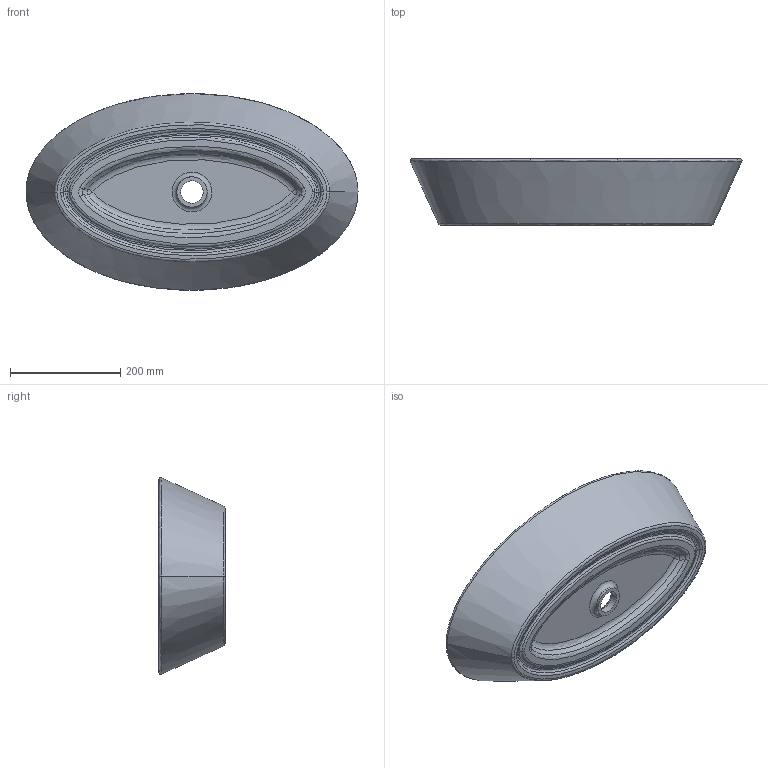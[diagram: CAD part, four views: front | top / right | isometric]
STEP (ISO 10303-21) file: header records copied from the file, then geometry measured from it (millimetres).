
FILE_DESCRIPTION(/* description */ (''),/* implementation_level */ '2;1');
FILE_NAME(/* name */ 'c:\worker\convert-fusion-r05\tmp\job-1\5\output\files\eb193e29-5590-4bd7-91c6-348b441aec60\cfe67f66-e1f3-4d83-bd10-6bd21b858c3b.stp',/* time_stamp */ '2020-07-02T11:56:06+00:00',/* author */ (''),/* organization */ (''),/* preprocessor_version */ 'ST-DEVELOPER v18.1',/* originating_system */ 'Autodesk Translation Framework v9.3.0.1241',/* authorisation */ '');
FILE_SCHEMA (('AUTOMOTIVE_DESIGN { 1 0 10303 214 3 1 1 }'));
Products named in the file (1): !LAREDO 605
Bounding box: 601.09 x 120 x 356.1 mm (x, y, z)
Volume: 5546520.4 mm3; surface area: 494809.1 mm2
Topology: 1 solids, 1 shells, 60 faces, 128 edges, 74 vertices
Faces by surface type: bspline 48, plane 6, sphere 2, torus 2, cylinder 2
Full cylindrical faces by diameter (mm): 40.688 x1, 55 x1
Entity records: 29809 total; most frequent: CARTESIAN_POINT 28774, ORIENTED_EDGE 256, DIRECTION 132, EDGE_CURVE 128, VERTEX_POINT 74, B_SPLINE_CURVE_WITH_KNOTS 73, EDGE_LOOP 66, AXIS2_PLACEMENT_3D 64
